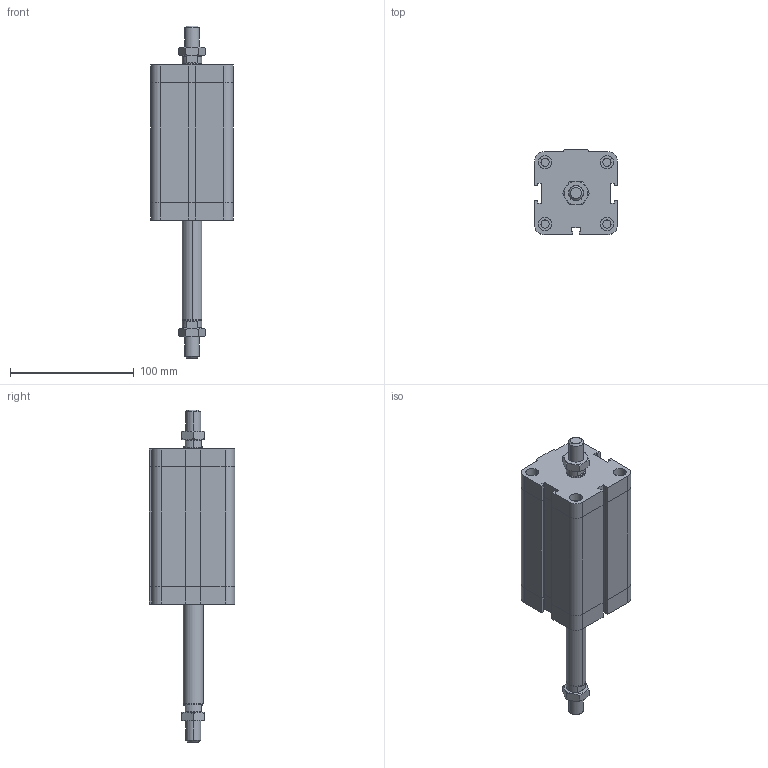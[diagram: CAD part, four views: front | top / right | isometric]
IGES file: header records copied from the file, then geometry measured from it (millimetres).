
Global section: file name: No Iges File Name specified; native system: Autodesk Inventor 2009; preprocessor: AutoDesk Inventor Iges Exporter R2009; author: maffial1; date: 20090420.200944; units: millimetre
Bounding box: 67 x 69 x 268.5 mm (x, y, z)
Volume: 555797.7 mm3; surface area: 73148.4 mm2
Topology: 4 solids, 4 shells, 260 faces, 574 edges, 342 vertices
Faces by surface type: plane 129, bspline 51, cone 38, cylinder 22, revolution 20
